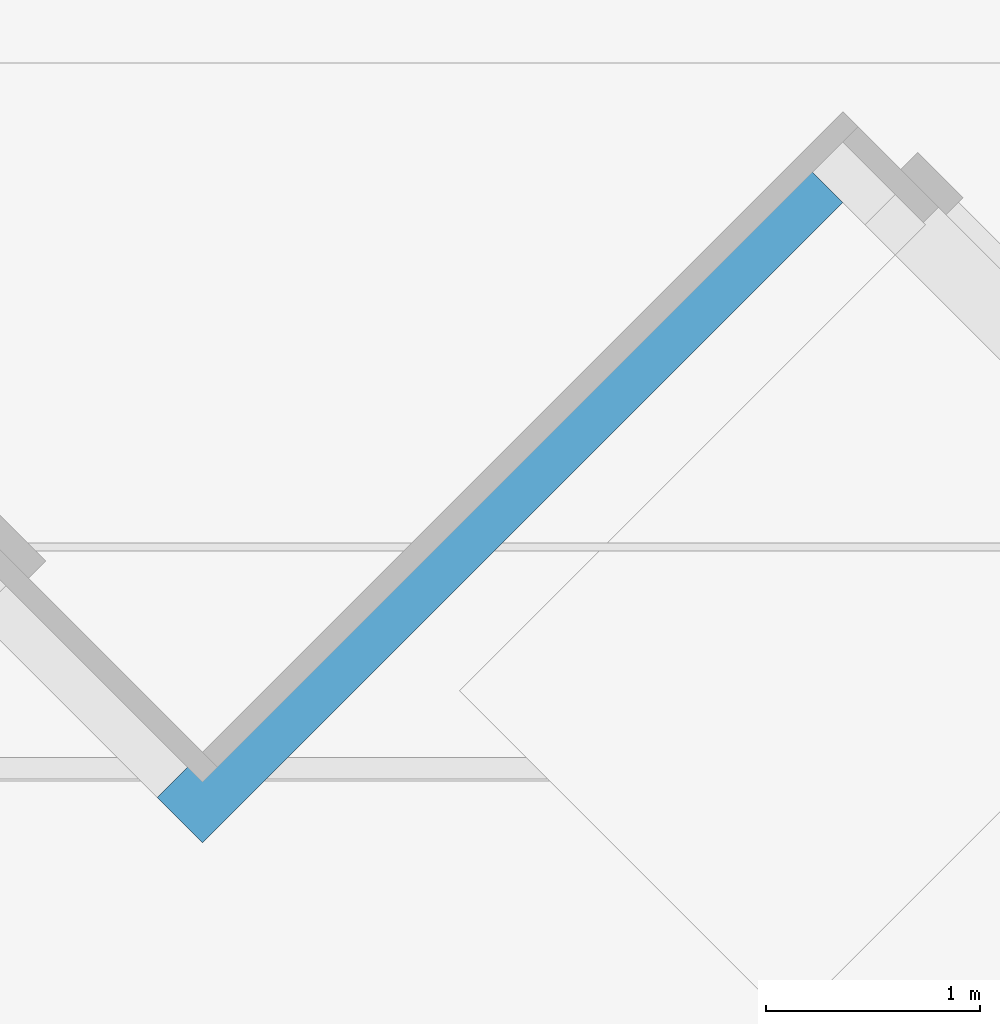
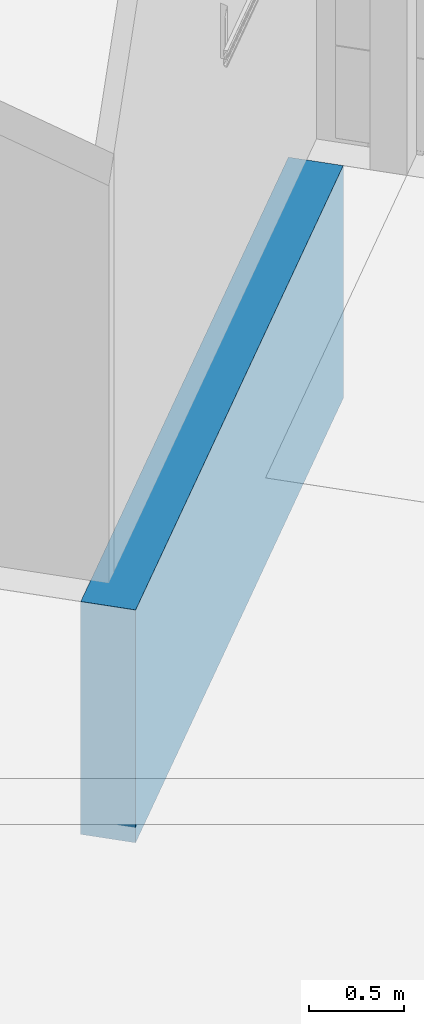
# One storey, part 51 of 64: 1 wall.
"""IFC2X3 building model written with IfcOpenShell, lengths in millimetres."""

from ifc_helpers import new_model, entity, si_unit, converted_unit, derived_unit, direction, frame, frame_2d, origin, place, context, subcontext, project, spatial, rectangle, extrude, material, layer, layer_set, layer_usage, type_object, element, save


model = new_model("IFC2X3")

# Units and contexts
model_context = context("Model", 3, precision=0.01, world=origin(), true_north=direction((4.05803320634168e-15, -1.0)))
body_context = subcontext(model_context, "Body", "Model", "MODEL_VIEW")
ifc_project = project(units=[si_unit("LENGTHUNIT", "METRE", prefix="MILLI"), si_unit("AREAUNIT", "SQUARE_METRE"), si_unit("VOLUMEUNIT", "CUBIC_METRE"), converted_unit("PLANEANGLEUNIT", "DEGREE", entity("IfcRatioMeasure", 0.0174532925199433), si_unit("PLANEANGLEUNIT", "RADIAN"), dimensions=[0, 0, 0, 0, 0, 0, 0]), si_unit("MASSUNIT", "GRAM", prefix="KILO"), derived_unit("MASSDENSITYUNIT", [(si_unit("MASSUNIT", "GRAM", prefix="KILO"), 1), (si_unit("LENGTHUNIT", "METRE"), -3)]), si_unit("TIMEUNIT", "SECOND"), si_unit("FREQUENCYUNIT", "HERTZ"), si_unit("THERMODYNAMICTEMPERATUREUNIT", "DEGREE_CELSIUS"), derived_unit("THERMALTRANSMITTANCEUNIT", [(si_unit("MASSUNIT", "GRAM", prefix="KILO"), 1), (si_unit("THERMODYNAMICTEMPERATUREUNIT", "KELVIN"), -1), (si_unit("TIMEUNIT", "SECOND"), -3)]), derived_unit("VOLUMETRICFLOWRATEUNIT", [(si_unit("LENGTHUNIT", "METRE"), 3), (si_unit("TIMEUNIT", "SECOND"), -1)]), si_unit("ELECTRICCURRENTUNIT", "AMPERE"), si_unit("ELECTRICVOLTAGEUNIT", "VOLT"), si_unit("POWERUNIT", "WATT"), si_unit("FORCEUNIT", "NEWTON", prefix="KILO"), si_unit("ILLUMINANCEUNIT", "LUX"), si_unit("LUMINOUSFLUXUNIT", "LUMEN"), si_unit("LUMINOUSINTENSITYUNIT", "CANDELA"), derived_unit("USERDEFINED", [(si_unit("MASSUNIT", "GRAM", prefix="KILO"), -1), (si_unit("LENGTHUNIT", "METRE"), -2), (si_unit("TIMEUNIT", "SECOND"), 3), (si_unit("LUMINOUSFLUXUNIT", "LUMEN"), 1)]), derived_unit("LINEARVELOCITYUNIT", [(si_unit("LENGTHUNIT", "METRE"), 1), (si_unit("TIMEUNIT", "SECOND"), -1)]), si_unit("PRESSUREUNIT", "PASCAL"), derived_unit("USERDEFINED", [(si_unit("LENGTHUNIT", "METRE"), -2), (si_unit("MASSUNIT", "GRAM", prefix="KILO"), 1), (si_unit("TIMEUNIT", "SECOND"), -2)])], contexts=[model_context])

# Site, building, storey
site_placement = place(None, frame((927466.849349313, 583801.882853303, 0.0), z_axis=(0.0, 0.0, 1.0), x_axis=(-1.0, 0.0, 0.0)))
site = spatial("IfcSite", under=ifc_project, at=site_placement, Name="Surface", CompositionType="ELEMENT")
building_placement = place(site_placement, origin())
building = spatial("IfcBuilding", under=site, at=building_placement, CompositionType="ELEMENT")
storey_placement = place(building_placement, frame((0.0, 0.0, 44170.0)))
storey = spatial("IfcBuildingStorey", under=building, at=storey_placement, Name="Ground FFL", CompositionType="ELEMENT", Elevation=44170.0)

# Wall
ifc_material = material(Name="conc bund")
ifc_layer = layer(ifc_material, 300.0)
ifc_layer_set = layer_set([ifc_layer], Name="Basic Wall:300 bund wall")
ifc_layer_usage = layer_usage(ifc_layer_set, "AXIS2", "POSITIVE", -150.0)
wall_type = type_object("IfcWallType", Name="Basic Wall:300 bund wall", PredefinedType="STANDARD", material=ifc_layer_set)
wall_placement = place(storey_placement, frame((-131818.310362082, -33356.1242200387, -1500.0), z_axis=(0.0, 0.0, 1.0), x_axis=(0.70710678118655, 0.707106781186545, 0.0)))
element("IfcWallStandardCase", 1, at=wall_placement, inside=storey, type_object=wall_type, material=ifc_layer_usage, Name="Basic Wall:300 bund wall", ObjectType="Basic Wall:300 bund wall", context=body_context, shape_type="SweptSolid", body=[
    extrude(rectangle(XDim=4232.26267936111, YDim=300.000000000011, at=frame_2d((2116.13133968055, 5.6843418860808e-13), x_axis=(-1.0, 0.0))), origin(), (0.0, 0.0, 1.0), 1500.00000000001),
])

save(model, "model.ifc")
